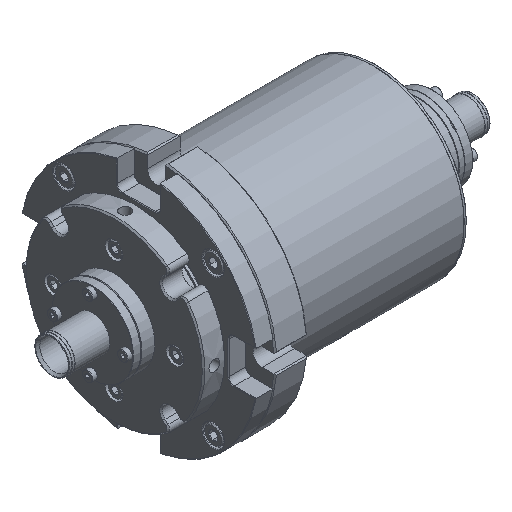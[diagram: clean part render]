
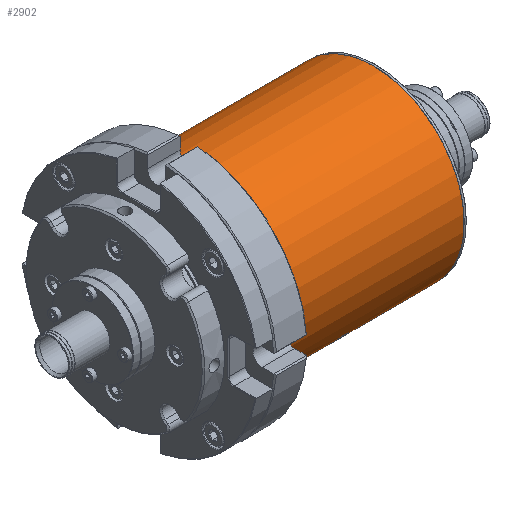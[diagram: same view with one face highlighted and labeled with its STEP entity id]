
A CAD part, isometric view. The second image highlights one B-rep face of the part: STEP entity #2902.
In plain terms, the highlighted cylindrical face has radius 33.5 mm (diameter 67 mm), a full revolution.
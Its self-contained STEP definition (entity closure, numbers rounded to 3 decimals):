
#57 = CARTESIAN_POINT ( 'NONE',  ( -91.975, -129.632, -21.807 ) ) ;
#137 = AXIS2_PLACEMENT_3D ( 'NONE', #8529, #3673, #13467 ) ;
#138 = CARTESIAN_POINT ( 'NONE',  ( -95.104, -130.101, -21.247 ) ) ;
#360 = CARTESIAN_POINT ( 'NONE',  ( -57.32, -127.889, 23.688 ) ) ;
#384 = CARTESIAN_POINT ( 'NONE',  ( -90.819, -127.732, -23.845 ) ) ;
#568 = CARTESIAN_POINT ( 'NONE',  ( -125.52, -127.889, 23.688 ) ) ;
#640 = VERTEX_POINT ( 'NONE', #568 ) ;
#1037 = CARTESIAN_POINT ( 'NONE',  ( -97.447, -128.65, -22.903 ) ) ;
#1517 = CARTESIAN_POINT ( 'NONE',  ( -92.71, -125.63, -25.749 ) ) ;
#1557 = ORIENTED_EDGE ( 'NONE', *, *, #6800, .T. ) ;
#1580 = EDGE_LOOP ( 'NONE', ( #1557 ) ) ;
#1600 = CARTESIAN_POINT ( 'NONE',  ( -96.295, -129.723, -21.7 ) ) ;
#1676 = CARTESIAN_POINT ( 'NONE',  ( -93.333, -125.448, -25.9 ) ) ;
#1761 = DIRECTION ( 'NONE',  ( -1., 0., 0. ) ) ;
#2168 = CARTESIAN_POINT ( 'NONE',  ( -97.276, -128.93, -22.6 ) ) ;
#2403 = ORIENTED_EDGE ( 'NONE', *, *, #3414, .T. ) ;
#2413 = CARTESIAN_POINT ( 'NONE',  ( -97.276, -126.8, -24.73 ) ) ;
#2489 = CARTESIAN_POINT ( 'NONE',  ( -97.62, -127.73, -23.846 ) ) ;
#2570 = CARTESIAN_POINT ( 'NONE',  ( -93.119, -125.499, -25.858 ) ) ;
#2812 = CARTESIAN_POINT ( 'NONE',  ( -92.716, -129.952, -21.428 ) ) ;
#2891 = CARTESIAN_POINT ( 'NONE',  ( -90.929, -128.506, -23.056 ) ) ;
#2902 = ADVANCED_FACE ( 'NONE', ( #6180, #10968, #10888 ), #14835, .T. ) ;
#2943 = VERTEX_POINT ( 'NONE', #360 ) ;
#3021 = CARTESIAN_POINT ( 'NONE',  ( -94.22, -125.362, -25.97 ) ) ;
#3414 = EDGE_CURVE ( 'NONE', #2943, #2943, #4819, .T. ) ;
#3454 = CARTESIAN_POINT ( 'NONE',  ( -96.784, -129.423, -22.048 ) ) ;
#3673 = DIRECTION ( 'NONE',  ( -1., 0., 0. ) ) ;
#3692 = CARTESIAN_POINT ( 'NONE',  ( -96.467, -126.009, -25.43 ) ) ;
#3770 = CARTESIAN_POINT ( 'NONE',  ( -90.993, -127.103, -24.449 ) ) ;
#3859 = CARTESIAN_POINT ( 'NONE',  ( -90.842, -128.204, -23.369 ) ) ;
#4012 = CARTESIAN_POINT ( 'NONE',  ( -94.443, -130.17, -21.162 ) ) ;
#4588 = CARTESIAN_POINT ( 'NONE',  ( -95.316, -125.497, -25.859 ) ) ;
#4669 = CARTESIAN_POINT ( 'NONE',  ( -94.665, -125.379, -25.956 ) ) ;
#4819 = CIRCLE ( 'NONE', #9474, 33.5 ) ;
#5064 = CARTESIAN_POINT ( 'NONE',  ( -91.514, -126.38, -25.107 ) ) ;
#5150 = CARTESIAN_POINT ( 'NONE',  ( -92.518, -129.884, -21.509 ) ) ;
#5230 = CARTESIAN_POINT ( 'NONE',  ( -94.22, -125.362, -25.97 ) ) ;
#5306 = CARTESIAN_POINT ( 'NONE',  ( -90.841, -127.574, -24. ) ) ;
#6180 = FACE_BOUND ( 'NONE', #1580, .T. ) ;
#6203 = CARTESIAN_POINT ( 'NONE',  ( -94.444, -125.362, -25.97 ) ) ;
#6281 = CARTESIAN_POINT ( 'NONE',  ( -95.728, -129.95, -21.429 ) ) ;
#6522 = CARTESIAN_POINT ( 'NONE',  ( -93.125, -130.06, -21.297 ) ) ;
#6596 = CARTESIAN_POINT ( 'NONE',  ( -91.517, -129.311, -22.176 ) ) ;
#6800 = EDGE_CURVE ( 'NONE', #14097, #14097, #9676, .T. ) ;
#7087 = CARTESIAN_POINT ( 'NONE',  ( -97.17, -129.063, -22.453 ) ) ;
#7204 = EDGE_LOOP ( 'NONE', ( #13974 ) ) ;
#7333 = CARTESIAN_POINT ( 'NONE',  ( -97.445, -127.1, -24.452 ) ) ;
#7404 = DIRECTION ( 'NONE',  ( 0., -0.707, 0.707 ) ) ;
#7413 = CARTESIAN_POINT ( 'NONE',  ( -95.728, -125.63, -25.75 ) ) ;
#7489 = CARTESIAN_POINT ( 'NONE',  ( -93.999, -130.17, -21.162 ) ) ;
#7565 = CARTESIAN_POINT ( 'NONE',  ( -90.927, -127.26, -24.301 ) ) ;
#7732 = CARTESIAN_POINT ( 'NONE',  ( -95.927, -129.882, -21.511 ) ) ;
#7813 = CARTESIAN_POINT ( 'NONE',  ( -91.163, -126.801, -24.729 ) ) ;
#8386 = CARTESIAN_POINT ( 'NONE',  ( -96.466, -129.631, -21.807 ) ) ;
#8471 = CARTESIAN_POINT ( 'NONE',  ( -95.1, -125.447, -25.901 ) ) ;
#8526 = CIRCLE ( 'NONE', #15765, 33.5 ) ;
#8529 = CARTESIAN_POINT ( 'NONE',  ( -137.52, -104.201, 0. ) ) ;
#8629 = CARTESIAN_POINT ( 'NONE',  ( -97.17, -126.653, -24.863 ) ) ;
#8711 = CARTESIAN_POINT ( 'NONE',  ( -92.146, -129.723, -21.699 ) ) ;
#9194 = DIRECTION ( 'NONE',  ( 0., -0.707, 0.707 ) ) ;
#9474 = AXIS2_PLACEMENT_3D ( 'NONE', #12913, #1761, #9194 ) ;
#9530 = CARTESIAN_POINT ( 'NONE',  ( -97.511, -128.504, -23.057 ) ) ;
#9676 = B_SPLINE_CURVE_WITH_KNOTS ( 'NONE', 3,
 ( #15912, #6203, #4669, #8471, #4588, #7413, #13411, #14702, #3692, #13495, #13327, #8629, #2413, #7333, #13569, #15834, #2489, #12362, #11148, #9530, #1037, #2168, #7087, #14541, #3454, #8386, #1600, #7732, #6281, #12598, #138, #11311, #4012, #7489, #14854, #12677, #6522, #2812, #5150, #8711, #57, #10171, #6596, #13810, #12516, #11468, #2891, #3859, #15100, #384, #5306, #7565, #3770, #7813, #11224, #5064, #12442, #13655, #12758, #14936, #1517, #2570, #1676, #10090, #10009, #5230 ),
 .UNSPECIFIED., .T., .F.,
 ( 4, 2, 2, 2, 2, 2, 2, 2, 2, 2, 2, 2, 2, 2, 2, 2, 2, 2, 2, 2, 2, 2, 2, 2, 2, 2, 2, 2, 2, 2, 2, 2, 4 ),
 ( 0., 0.001, 0.001, 0.002, 0.003, 0.003, 0.004, 0.005, 0.005, 0.006, 0.007, 0.007, 0.008, 0.009, 0.009, 0.01, 0.011, 0.011, 0.012, 0.013, 0.013, 0.014, 0.015, 0.015, 0.016, 0.017, 0.017, 0.018, 0.019, 0.019, 0.02, 0.021, 0.021 ),
 .UNSPECIFIED. ) ;
#10009 = CARTESIAN_POINT ( 'NONE',  ( -93.995, -125.362, -25.97 ) ) ;
#10090 = CARTESIAN_POINT ( 'NONE',  ( -93.773, -125.379, -25.956 ) ) ;
#10171 = CARTESIAN_POINT ( 'NONE',  ( -91.661, -129.426, -22.044 ) ) ;
#10888 = FACE_OUTER_BOUND ( 'NONE', #14922, .T. ) ;
#10968 = FACE_OUTER_BOUND ( 'NONE', #7204, .T. ) ;
#11148 = CARTESIAN_POINT ( 'NONE',  ( -97.598, -128.202, -23.372 ) ) ;
#11224 = CARTESIAN_POINT ( 'NONE',  ( -91.267, -126.656, -24.861 ) ) ;
#11311 = CARTESIAN_POINT ( 'NONE',  ( -94.668, -130.156, -21.179 ) ) ;
#11468 = CARTESIAN_POINT ( 'NONE',  ( -90.995, -128.654, -22.898 ) ) ;
#12362 = CARTESIAN_POINT ( 'NONE',  ( -97.62, -128.044, -23.533 ) ) ;
#12442 = CARTESIAN_POINT ( 'NONE',  ( -91.657, -126.248, -25.223 ) ) ;
#12516 = CARTESIAN_POINT ( 'NONE',  ( -91.166, -128.933, -22.596 ) ) ;
#12598 = CARTESIAN_POINT ( 'NONE',  ( -95.316, -130.06, -21.297 ) ) ;
#12677 = CARTESIAN_POINT ( 'NONE',  ( -93.34, -130.102, -21.246 ) ) ;
#12758 = CARTESIAN_POINT ( 'NONE',  ( -92.141, -125.903, -25.52 ) ) ;
#12913 = CARTESIAN_POINT ( 'NONE',  ( -57.32, -104.201, 0. ) ) ;
#13327 = CARTESIAN_POINT ( 'NONE',  ( -96.922, -126.375, -25.111 ) ) ;
#13411 = CARTESIAN_POINT ( 'NONE',  ( -95.923, -125.71, -25.683 ) ) ;
#13467 = DIRECTION ( 'NONE',  ( 0., -0.707, 0.707 ) ) ;
#13495 = CARTESIAN_POINT ( 'NONE',  ( -96.781, -126.247, -25.224 ) ) ;
#13569 = CARTESIAN_POINT ( 'NONE',  ( -97.511, -127.256, -24.305 ) ) ;
#13655 = CARTESIAN_POINT ( 'NONE',  ( -91.97, -126.01, -25.429 ) ) ;
#13810 = CARTESIAN_POINT ( 'NONE',  ( -91.27, -129.065, -22.451 ) ) ;
#13974 = ORIENTED_EDGE ( 'NONE', *, *, #14416, .F. ) ;
#14097 = VERTEX_POINT ( 'NONE', #3021 ) ;
#14416 = EDGE_CURVE ( 'NONE', #640, #640, #8526, .T. ) ;
#14541 = CARTESIAN_POINT ( 'NONE',  ( -96.924, -129.309, -22.177 ) ) ;
#14702 = CARTESIAN_POINT ( 'NONE',  ( -96.293, -125.899, -25.523 ) ) ;
#14772 = DIRECTION ( 'NONE',  ( -1., 0., 0. ) ) ;
#14835 = CYLINDRICAL_SURFACE ( 'NONE', #137, 33.5 ) ;
#14854 = CARTESIAN_POINT ( 'NONE',  ( -93.778, -130.157, -21.178 ) ) ;
#14922 = EDGE_LOOP ( 'NONE', ( #2403 ) ) ;
#14936 = CARTESIAN_POINT ( 'NONE',  ( -92.512, -125.712, -25.681 ) ) ;
#15100 = CARTESIAN_POINT ( 'NONE',  ( -90.82, -128.05, -23.527 ) ) ;
#15765 = AXIS2_PLACEMENT_3D ( 'NONE', #15828, #14772, #7404 ) ;
#15828 = CARTESIAN_POINT ( 'NONE',  ( -125.52, -104.201, 0. ) ) ;
#15834 = CARTESIAN_POINT ( 'NONE',  ( -97.598, -127.573, -24.001 ) ) ;
#15912 = CARTESIAN_POINT ( 'NONE',  ( -94.22, -125.362, -25.97 ) ) ;
